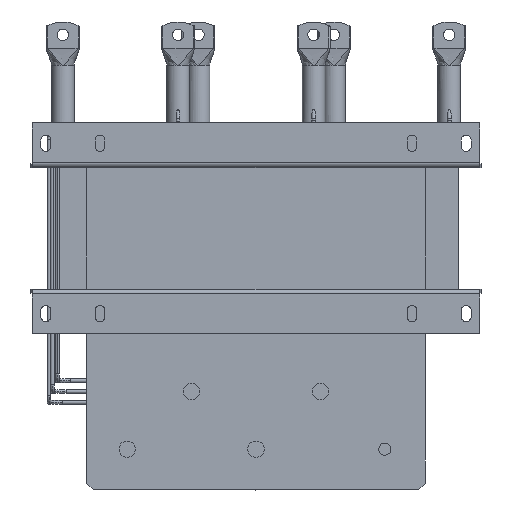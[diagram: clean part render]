
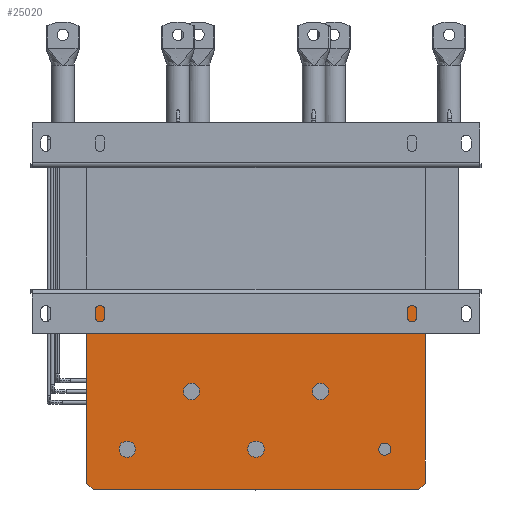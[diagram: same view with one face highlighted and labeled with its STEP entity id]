
A CAD part, front view. The second image highlights one B-rep face of the part: STEP entity #25020.
In plain terms, the highlighted planar face has unit normal (0, -1, 0).
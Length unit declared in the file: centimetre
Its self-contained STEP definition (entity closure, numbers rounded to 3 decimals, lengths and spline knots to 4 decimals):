
#268 = VERTEX_POINT ( 'NONE', #11793 ) ;
#642 = ORIENTED_EDGE ( 'NONE', *, *, #1298, .F. ) ;
#1037 = FACE_BOUND ( 'NONE', #4441, .T. ) ;
#1246 = CARTESIAN_POINT ( 'NONE',  ( -25., 8.1, -38.565 ) ) ;
#1298 = EDGE_CURVE ( 'NONE', #11194, #6684, #3142, .T. ) ;
#1458 = CARTESIAN_POINT ( 'NONE',  ( -19., 8.1, -32.565 ) ) ;
#1589 = LINE ( 'NONE', #20473, #6651 ) ;
#1590 = PLANE ( 'NONE',  #12917 ) ;
#1729 = EDGE_CURVE ( 'NONE', #22210, #7247, #14254, .T. ) ;
#1953 = CIRCLE ( 'NONE', #2380, 0.9 ) ;
#2003 = DIRECTION ( 'NONE',  ( 0.707, 0., 0.707 ) ) ;
#2184 = CARTESIAN_POINT ( 'NONE',  ( 19., 8.1, -31.665 ) ) ;
#2224 = ORIENTED_EDGE ( 'NONE', *, *, #23647, .F. ) ;
#2227 = CIRCLE ( 'NONE', #11981, 1.2 ) ;
#2380 = AXIS2_PLACEMENT_3D ( 'NONE', #10663, #8719, #17051 ) ;
#2405 = DIRECTION ( 'NONE',  ( 0., 1., 0. ) ) ;
#2444 = DIRECTION ( 'NONE',  ( 0., 0., 1. ) ) ;
#2703 = DIRECTION ( 'NONE',  ( 0., -1., 0. ) ) ;
#3142 = CIRCLE ( 'NONE', #12927, 1.2 ) ;
#3153 = AXIS2_PLACEMENT_3D ( 'NONE', #7293, #2703, #13680 ) ;
#3194 = VERTEX_POINT ( 'NONE', #2184 ) ;
#3196 = CARTESIAN_POINT ( 'NONE',  ( 9.5, 8.1, -24.065 ) ) ;
#3265 = FACE_OUTER_BOUND ( 'NONE', #8203, .T. ) ;
#3548 = ORIENTED_EDGE ( 'NONE', *, *, #17812, .F. ) ;
#3668 = CARTESIAN_POINT ( 'NONE',  ( 25., 8.1, -10.365 ) ) ;
#3758 = ORIENTED_EDGE ( 'NONE', *, *, #21756, .F. ) ;
#4441 = EDGE_LOOP ( 'NONE', ( #11829, #5833 ) ) ;
#4511 = CARTESIAN_POINT ( 'NONE',  ( -19., 8.1, -33.765 ) ) ;
#4714 = EDGE_CURVE ( 'NONE', #6684, #11194, #26624, .T. ) ;
#4727 = AXIS2_PLACEMENT_3D ( 'NONE', #13544, #21725, #2444 ) ;
#5253 = CARTESIAN_POINT ( 'NONE',  ( 0., 8.1, -32.565 ) ) ;
#5833 = ORIENTED_EDGE ( 'NONE', *, *, #14039, .T. ) ;
#5864 = CARTESIAN_POINT ( 'NONE',  ( -25., 8.1, -37.565 ) ) ;
#5933 = VERTEX_POINT ( 'NONE', #3668 ) ;
#6135 = EDGE_CURVE ( 'NONE', #21027, #5933, #25981, .T. ) ;
#6371 = VECTOR ( 'NONE', #21546, 100. ) ;
#6376 = CARTESIAN_POINT ( 'NONE',  ( 9.5, 8.1, -25.265 ) ) ;
#6382 = EDGE_CURVE ( 'NONE', #13485, #3194, #1953, .T. ) ;
#6651 = VECTOR ( 'NONE', #2003, 100. ) ;
#6684 = VERTEX_POINT ( 'NONE', #4511 ) ;
#6810 = ORIENTED_EDGE ( 'NONE', *, *, #1729, .F. ) ;
#6813 = CARTESIAN_POINT ( 'NONE',  ( -24., 8.1, -38.565 ) ) ;
#6968 = CARTESIAN_POINT ( 'NONE',  ( -25., 8.1, -10.365 ) ) ;
#6971 = EDGE_LOOP ( 'NONE', ( #24089, #3548 ) ) ;
#7118 = LINE ( 'NONE', #15728, #10634 ) ;
#7247 = VERTEX_POINT ( 'NONE', #19879 ) ;
#7293 = CARTESIAN_POINT ( 'NONE',  ( 0., 8.1, -32.565 ) ) ;
#7890 = ORIENTED_EDGE ( 'NONE', *, *, #13512, .T. ) ;
#8203 = EDGE_LOOP ( 'NONE', ( #19052, #12758, #17447, #7890, #3758, #17613 ) ) ;
#8719 = DIRECTION ( 'NONE',  ( 0., 1., 0. ) ) ;
#8848 = AXIS2_PLACEMENT_3D ( 'NONE', #23096, #2405, #10874 ) ;
#8901 = CARTESIAN_POINT ( 'NONE',  ( 19., 8.1, -33.465 ) ) ;
#9596 = DIRECTION ( 'NONE',  ( 0., -1., 0. ) ) ;
#10066 = DIRECTION ( 'NONE',  ( 0., 0., 1. ) ) ;
#10273 = EDGE_LOOP ( 'NONE', ( #2224, #19190 ) ) ;
#10388 = CARTESIAN_POINT ( 'NONE',  ( 0., 8.1, -31.365 ) ) ;
#10634 = VECTOR ( 'NONE', #13235, 100. ) ;
#10663 = CARTESIAN_POINT ( 'NONE',  ( 19., 8.1, -32.565 ) ) ;
#10716 = DIRECTION ( 'NONE',  ( 0.707, 0., -0.707 ) ) ;
#10874 = DIRECTION ( 'NONE',  ( 0., 0., 1. ) ) ;
#11113 = DIRECTION ( 'NONE',  ( 0., 0., -1. ) ) ;
#11194 = VERTEX_POINT ( 'NONE', #19318 ) ;
#11783 = CARTESIAN_POINT ( 'NONE',  ( 25., 8.1, -37.565 ) ) ;
#11793 = CARTESIAN_POINT ( 'NONE',  ( 24., 8.1, -38.565 ) ) ;
#11829 = ORIENTED_EDGE ( 'NONE', *, *, #6382, .T. ) ;
#11877 = FACE_BOUND ( 'NONE', #6971, .T. ) ;
#11920 = DIRECTION ( 'NONE',  ( 0., 0., 1. ) ) ;
#11981 = AXIS2_PLACEMENT_3D ( 'NONE', #23268, #12316, #12729 ) ;
#12119 = EDGE_LOOP ( 'NONE', ( #20231, #6810 ) ) ;
#12316 = DIRECTION ( 'NONE',  ( 0., -1., 0. ) ) ;
#12450 = DIRECTION ( 'NONE',  ( 0., -1., 0. ) ) ;
#12729 = DIRECTION ( 'NONE',  ( 0., 0., 1. ) ) ;
#12758 = ORIENTED_EDGE ( 'NONE', *, *, #6135, .F. ) ;
#12870 = EDGE_CURVE ( 'NONE', #7247, #22210, #23793, .T. ) ;
#12917 = AXIS2_PLACEMENT_3D ( 'NONE', #22132, #18123, #20204 ) ;
#12927 = AXIS2_PLACEMENT_3D ( 'NONE', #22622, #26922, #27472 ) ;
#13235 = DIRECTION ( 'NONE',  ( 0., 0., 1. ) ) ;
#13290 = VERTEX_POINT ( 'NONE', #5864 ) ;
#13402 = CIRCLE ( 'NONE', #17843, 1.2 ) ;
#13485 = VERTEX_POINT ( 'NONE', #8901 ) ;
#13504 = EDGE_CURVE ( 'NONE', #21027, #13290, #23481, .T. ) ;
#13512 = EDGE_CURVE ( 'NONE', #13290, #26331, #23885, .T. ) ;
#13544 = CARTESIAN_POINT ( 'NONE',  ( 9.5, 8.1, -24.065 ) ) ;
#13680 = DIRECTION ( 'NONE',  ( 0., 0., 1. ) ) ;
#13728 = DIRECTION ( 'NONE',  ( 0., -1., 0. ) ) ;
#13889 = VECTOR ( 'NONE', #10716, 100. ) ;
#14039 = EDGE_CURVE ( 'NONE', #3194, #13485, #27022, .T. ) ;
#14141 = EDGE_CURVE ( 'NONE', #17754, #5933, #7118, .T. ) ;
#14254 = CIRCLE ( 'NONE', #18685, 1.2 ) ;
#14481 = VERTEX_POINT ( 'NONE', #18698 ) ;
#14696 = VERTEX_POINT ( 'NONE', #21858 ) ;
#14867 = EDGE_CURVE ( 'NONE', #268, #17754, #1589, .T. ) ;
#15430 = CARTESIAN_POINT ( 'NONE',  ( -24., 8.1, -38.565 ) ) ;
#15728 = CARTESIAN_POINT ( 'NONE',  ( 25., 8.1, -37.565 ) ) ;
#16023 = CIRCLE ( 'NONE', #3153, 1.2 ) ;
#16109 = DIRECTION ( 'NONE',  ( -1., 0., 0. ) ) ;
#17051 = DIRECTION ( 'NONE',  ( 0., 0., 1. ) ) ;
#17252 = AXIS2_PLACEMENT_3D ( 'NONE', #1458, #22840, #10066 ) ;
#17447 = ORIENTED_EDGE ( 'NONE', *, *, #13504, .T. ) ;
#17613 = ORIENTED_EDGE ( 'NONE', *, *, #14867, .T. ) ;
#17754 = VERTEX_POINT ( 'NONE', #11783 ) ;
#17812 = EDGE_CURVE ( 'NONE', #14481, #18725, #13402, .T. ) ;
#17843 = AXIS2_PLACEMENT_3D ( 'NONE', #5253, #13728, #11920 ) ;
#18064 = DIRECTION ( 'NONE',  ( 0., 0., 1. ) ) ;
#18123 = DIRECTION ( 'NONE',  ( 0., 1., 0. ) ) ;
#18277 = VERTEX_POINT ( 'NONE', #22538 ) ;
#18685 = AXIS2_PLACEMENT_3D ( 'NONE', #3196, #9596, #18064 ) ;
#18698 = CARTESIAN_POINT ( 'NONE',  ( 0., 8.1, -33.765 ) ) ;
#18725 = VERTEX_POINT ( 'NONE', #10388 ) ;
#19052 = ORIENTED_EDGE ( 'NONE', *, *, #14141, .T. ) ;
#19190 = ORIENTED_EDGE ( 'NONE', *, *, #23659, .F. ) ;
#19244 = CARTESIAN_POINT ( 'NONE',  ( -9.5, 8.1, -24.065 ) ) ;
#19318 = CARTESIAN_POINT ( 'NONE',  ( -19., 8.1, -31.365 ) ) ;
#19879 = CARTESIAN_POINT ( 'NONE',  ( 9.5, 8.1, -22.865 ) ) ;
#20204 = DIRECTION ( 'NONE',  ( 0., 0., -1. ) ) ;
#20231 = ORIENTED_EDGE ( 'NONE', *, *, #12870, .F. ) ;
#20473 = CARTESIAN_POINT ( 'NONE',  ( 25., 8.1, -37.565 ) ) ;
#20897 = ORIENTED_EDGE ( 'NONE', *, *, #4714, .F. ) ;
#21027 = VERTEX_POINT ( 'NONE', #21626 ) ;
#21546 = DIRECTION ( 'NONE',  ( 1., 0., 0. ) ) ;
#21626 = CARTESIAN_POINT ( 'NONE',  ( -25., 8.1, -10.365 ) ) ;
#21725 = DIRECTION ( 'NONE',  ( 0., -1., 0. ) ) ;
#21756 = EDGE_CURVE ( 'NONE', #268, #26331, #22207, .T. ) ;
#21858 = CARTESIAN_POINT ( 'NONE',  ( -9.5, 8.1, -25.265 ) ) ;
#22132 = CARTESIAN_POINT ( 'NONE',  ( 0., 8.1, -24.065 ) ) ;
#22207 = LINE ( 'NONE', #1246, #25219 ) ;
#22210 = VERTEX_POINT ( 'NONE', #6376 ) ;
#22538 = CARTESIAN_POINT ( 'NONE',  ( -9.5, 8.1, -22.865 ) ) ;
#22557 = FACE_BOUND ( 'NONE', #10273, .T. ) ;
#22622 = CARTESIAN_POINT ( 'NONE',  ( -19., 8.1, -32.565 ) ) ;
#22699 = FACE_BOUND ( 'NONE', #24537, .T. ) ;
#22840 = DIRECTION ( 'NONE',  ( 0., -1., 0. ) ) ;
#23096 = CARTESIAN_POINT ( 'NONE',  ( 19., 8.1, -32.565 ) ) ;
#23268 = CARTESIAN_POINT ( 'NONE',  ( -9.5, 8.1, -24.065 ) ) ;
#23348 = CARTESIAN_POINT ( 'NONE',  ( -25., 8.1, -37.565 ) ) ;
#23481 = LINE ( 'NONE', #23348, #25842 ) ;
#23647 = EDGE_CURVE ( 'NONE', #18277, #14696, #26157, .T. ) ;
#23659 = EDGE_CURVE ( 'NONE', #14696, #18277, #2227, .T. ) ;
#23793 = CIRCLE ( 'NONE', #4727, 1.2 ) ;
#23885 = LINE ( 'NONE', #6813, #13889 ) ;
#23938 = AXIS2_PLACEMENT_3D ( 'NONE', #19244, #12450, #27439 ) ;
#24089 = ORIENTED_EDGE ( 'NONE', *, *, #24882, .F. ) ;
#24537 = EDGE_LOOP ( 'NONE', ( #642, #20897 ) ) ;
#24882 = EDGE_CURVE ( 'NONE', #18725, #14481, #16023, .T. ) ;
#25020 = ADVANCED_FACE ( 'NONE', ( #1037, #22557, #26862, #22699, #11877, #3265 ), #1590, .F. ) ;
#25219 = VECTOR ( 'NONE', #16109, 100. ) ;
#25842 = VECTOR ( 'NONE', #11113, 100. ) ;
#25981 = LINE ( 'NONE', #6968, #6371 ) ;
#26157 = CIRCLE ( 'NONE', #23938, 1.2 ) ;
#26331 = VERTEX_POINT ( 'NONE', #15430 ) ;
#26624 = CIRCLE ( 'NONE', #17252, 1.2 ) ;
#26862 = FACE_BOUND ( 'NONE', #12119, .T. ) ;
#26922 = DIRECTION ( 'NONE',  ( 0., -1., 0. ) ) ;
#27022 = CIRCLE ( 'NONE', #8848, 0.9 ) ;
#27439 = DIRECTION ( 'NONE',  ( 0., 0., 1. ) ) ;
#27472 = DIRECTION ( 'NONE',  ( 0., 0., 1. ) ) ;
